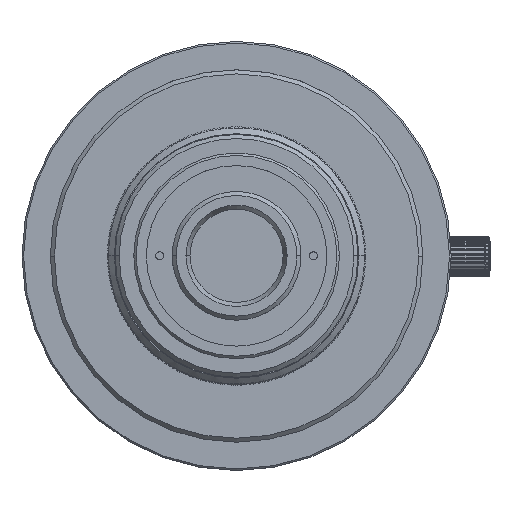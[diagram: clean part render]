
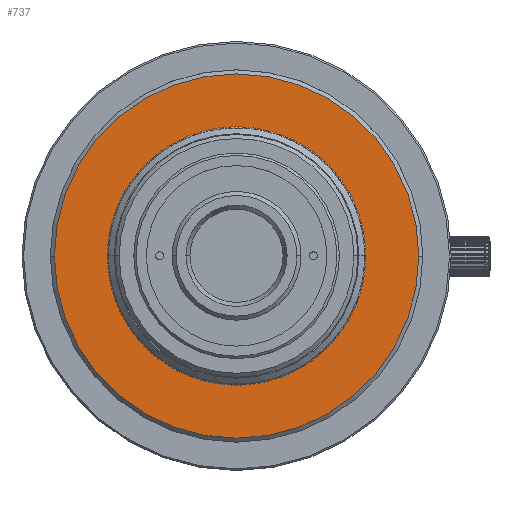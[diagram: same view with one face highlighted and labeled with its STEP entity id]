
A CAD part, top view. The second image highlights one B-rep face of the part: STEP entity #737.
In plain terms, the highlighted planar face has unit normal (0, 0, 1).
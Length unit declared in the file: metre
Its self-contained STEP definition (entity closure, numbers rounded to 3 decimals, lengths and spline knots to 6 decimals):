
#737=ADVANCED_FACE('0:20290',(#3402,#3403),#3404,.T.);
#3402=FACE_OUTER_BOUND('',#9775,.T.);
#3403=FACE_BOUND('',#9776,.T.);
#3404=PLANE('',#9777);
#9775=EDGE_LOOP('',(#18172,#18173));
#9776=EDGE_LOOP('',(#18174,#18175));
#9777=AXIS2_PLACEMENT_3D('',#18176,#18177,#18178);
#18172=ORIENTED_EDGE('',*,*,#28566,.F.);
#18173=ORIENTED_EDGE('',*,*,#27988,.F.);
#18174=ORIENTED_EDGE('',*,*,#27997,.F.);
#18175=ORIENTED_EDGE('',*,*,#28562,.F.);
#18176=CARTESIAN_POINT('',(0.0,0.,0.099));
#18177=DIRECTION('',(0.0,0.,1.0));
#18178=DIRECTION('',(0.0,-1.0,0.));
#27988=EDGE_CURVE('0:25654',#33419,#33422,#33423,.T.);
#27997=EDGE_CURVE('0:25642',#33437,#33433,#33439,.T.);
#28562=EDGE_CURVE('0:25642',#33433,#33437,#34477,.T.);
#28566=EDGE_CURVE('0:25654',#33422,#33419,#34481,.T.);
#33419=VERTEX_POINT('',#41329);
#33422=VERTEX_POINT('',#41333);
#33423=CIRCLE('',#41334,0.0225);
#33433=VERTEX_POINT('',#41347);
#33437=VERTEX_POINT('',#41352);
#33439=CIRCLE('',#41355,0.0159);
#34477=CIRCLE('',#43303,0.0159);
#34481=CIRCLE('',#43307,0.0225);
#41329=CARTESIAN_POINT('',(0.0225,0.,0.099));
#41333=CARTESIAN_POINT('',(-0.0225,0.,0.099));
#41334=AXIS2_PLACEMENT_3D('',#53006,#53007,#53008);
#41347=CARTESIAN_POINT('',(0.0159,0.,0.099));
#41352=CARTESIAN_POINT('',(-0.0159,0.,0.099));
#41355=AXIS2_PLACEMENT_3D('',#53023,#53024,#53025);
#43303=AXIS2_PLACEMENT_3D('',#54125,#54126,#54127);
#43307=AXIS2_PLACEMENT_3D('',#54137,#54138,#54139);
#53006=CARTESIAN_POINT('',(0.0,0.,0.099));
#53007=DIRECTION('',(0.0,0.,-1.0));
#53008=DIRECTION('',(1.0,0.0,0.0));
#53023=CARTESIAN_POINT('',(0.0,0.,0.099));
#53024=DIRECTION('',(0.0,0.,1.0));
#53025=DIRECTION('',(-1.0,0.0,0.0));
#54125=CARTESIAN_POINT('',(0.0,0.,0.099));
#54126=DIRECTION('',(0.0,0.,1.0));
#54127=DIRECTION('',(-1.0,0.0,0.0));
#54137=CARTESIAN_POINT('',(0.0,0.,0.099));
#54138=DIRECTION('',(0.0,0.,-1.0));
#54139=DIRECTION('',(1.0,0.0,0.0));
